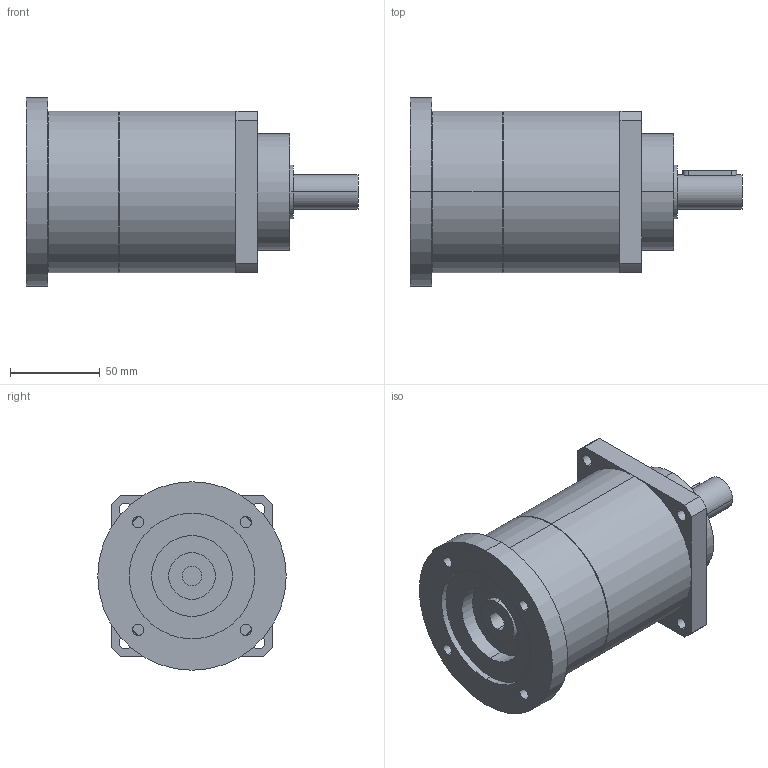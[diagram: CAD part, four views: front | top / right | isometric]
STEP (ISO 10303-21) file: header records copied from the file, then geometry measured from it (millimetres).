
FILE_DESCRIPTION(('CoCreate Modeling STEP Export'),'2;1');
FILE_NAME('GPT90_ig-9-12-16-20-25-28-35-40-50-70-100_19_B5T_11_P04.stp','2015-02-04T11:24:02',(''),(''),'CoCreate Modeling STEP processor for AP214 (Solid Model)','CoCreate Modeling 16.00C 25-Feb-2009 (C) Parametric Technology GmbH','');
FILE_SCHEMA(('AUTOMOTIVE_DESIGN { 1 0 10303 214 1 1 1 1 }'));
Length unit declared in the file: millimetre
Products named in the file (2): GPT90_ig-9-12-16-20-25-28-35-40-50-70-100_19_B5T_11_P04
Assembly tree (1 placements, depth 2):
  GPT90_ig-9-12-16-20-25-28-35-40-50-70-100_19_B5T_11_P04
    GPT90_ig-9-12-16-20-25-28-35-40-50-70-100_19_B5T_11_P04
Bounding box: 185 x 105 x 105 mm (x, y, z)
Volume: 907562.9 mm3; surface area: 70523.4 mm2
Topology: 1 solids, 1 shells, 75 faces, 205 edges, 138 vertices
Faces by surface type: cylinder 44, plane 27, cone 4
Entity records: 2477 total; most frequent: CARTESIAN_POINT 717, ORIENTED_EDGE 410, DIRECTION 294, EDGE_CURVE 205, VERTEX_POINT 138, AXIS2_PLACEMENT_3D 112, EDGE_LOOP 97, FACE_OUTER_BOUND 75
